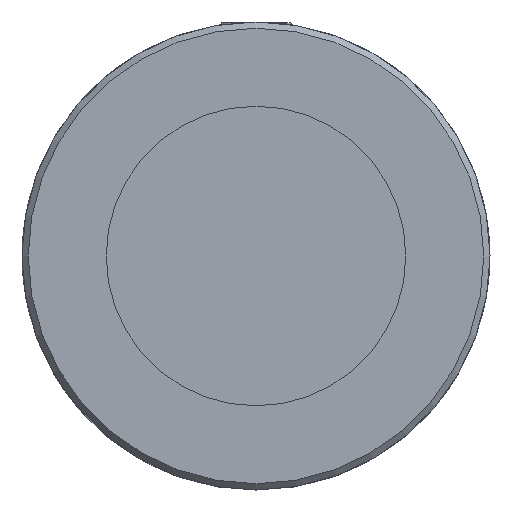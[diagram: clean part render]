
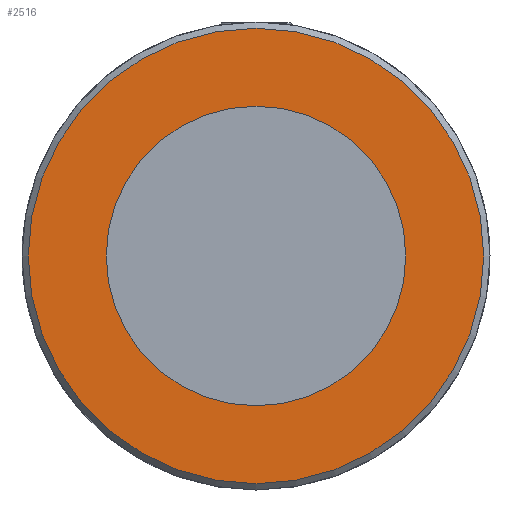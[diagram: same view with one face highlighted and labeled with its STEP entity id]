
A CAD part, left-side view. The second image highlights one B-rep face of the part: STEP entity #2516.
In plain terms, the highlighted planar face has unit normal (-1, 0, 0).
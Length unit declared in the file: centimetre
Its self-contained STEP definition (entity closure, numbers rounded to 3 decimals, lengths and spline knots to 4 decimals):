
#783=CIRCLE('',#2667,2.4);
#789=CIRCLE('',#2678,3.65);
#864=VERTEX_POINT('',#3322);
#877=VERTEX_POINT('',#3418);
#1255=EDGE_CURVE('',#864,#864,#783,.T.);
#1268=EDGE_CURVE('',#877,#877,#789,.T.);
#1571=ORIENTED_EDGE('',*,*,#1255,.T.);
#1572=ORIENTED_EDGE('',*,*,#1268,.F.);
#2136=EDGE_LOOP('',(#1571));
#2137=EDGE_LOOP('',(#1572));
#2329=FACE_BOUND('',#2136,.T.);
#2330=FACE_BOUND('',#2137,.T.);
#2516=ADVANCED_FACE('',(#2329,#2330),#14169,.T.);
#2667=AXIS2_PLACEMENT_3D('',#3321,#2860,#2861);
#2678=AXIS2_PLACEMENT_3D('',#3417,#2884,#2885);
#2679=AXIS2_PLACEMENT_3D('',#3419,#2886,$);
#2860=DIRECTION('',(1.,0.,0.));
#2861=DIRECTION('',(0.,0.,2.4));
#2884=DIRECTION('',(1.,0.,0.));
#2885=DIRECTION('',(0.,0.,3.65));
#2886=DIRECTION('',(-1.,0.,0.));
#3321=CARTESIAN_POINT('',(0.,0.,0.));
#3322=CARTESIAN_POINT('',(0.,0.,2.4));
#3417=CARTESIAN_POINT('',(0.,0.,0.));
#3418=CARTESIAN_POINT('',(0.,0.,-3.65));
#3419=CARTESIAN_POINT('',(0.,0.,-1.875));
#14169=PLANE('',#2679);
